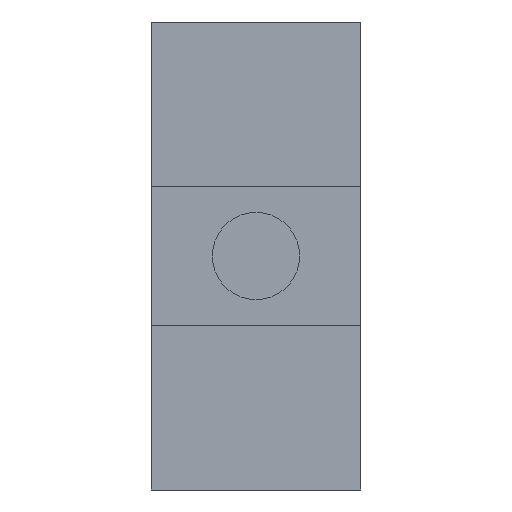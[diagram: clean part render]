
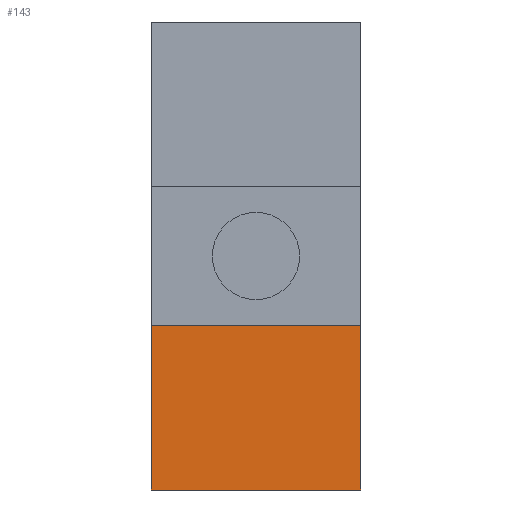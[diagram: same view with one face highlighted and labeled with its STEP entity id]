
A CAD part, front view. The second image highlights one B-rep face of the part: STEP entity #143.
In plain terms, the highlighted planar face has unit normal (0, -1, 0).
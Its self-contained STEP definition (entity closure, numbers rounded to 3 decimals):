
#30 = CARTESIAN_POINT ( 'NONE',  ( 3., -14., -3.7 ) ) ;
#31 = DIRECTION ( 'NONE',  ( 0., 0., -1. ) ) ;
#32 = DIRECTION ( 'NONE',  ( 0., -1., 0. ) ) ;
#39 = CARTESIAN_POINT ( 'NONE',  ( -3., -14., 9.7 ) ) ;
#40 = VERTEX_POINT ( 'NONE', #30 ) ;
#45 = PLANE ( 'NONE',  #897 ) ;
#63 = CARTESIAN_POINT ( 'NONE',  ( -3., -14., 1. ) ) ;
#65 = VERTEX_POINT ( 'NONE', #63 ) ;
#143 = ADVANCED_FACE ( 'NONE', ( #1501 ), #45, .T. ) ;
#253 = CARTESIAN_POINT ( 'NONE',  ( 3., -14., 9.7 ) ) ;
#422 = ORIENTED_EDGE ( 'NONE', *, *, #920, .T. ) ;
#423 = ORIENTED_EDGE ( 'NONE', *, *, #982, .F. ) ;
#428 = ORIENTED_EDGE ( 'NONE', *, *, #970, .T. ) ;
#429 = ORIENTED_EDGE ( 'NONE', *, *, #961, .T. ) ;
#514 = DIRECTION ( 'NONE',  ( 0., 0., -1. ) ) ;
#532 = VECTOR ( 'NONE', #514, 1000. ) ;
#670 = CARTESIAN_POINT ( 'NONE',  ( 3., -14., 1. ) ) ;
#675 = CARTESIAN_POINT ( 'NONE',  ( -3., -14., -3.7 ) ) ;
#817 = VERTEX_POINT ( 'NONE', #675 ) ;
#818 = VERTEX_POINT ( 'NONE', #670 ) ;
#897 = AXIS2_PLACEMENT_3D ( 'NONE', #39, #32, #31 ) ;
#920 = EDGE_CURVE ( 'NONE', #817, #40, #1144, .T. ) ;
#961 = EDGE_CURVE ( 'NONE', #65, #817, #1224, .T. ) ;
#970 = EDGE_CURVE ( 'NONE', #818, #65, #1234, .T. ) ;
#982 = EDGE_CURVE ( 'NONE', #818, #40, #1231, .T. ) ;
#1144 = LINE ( 'NONE', #1613, #1145 ) ;
#1145 = VECTOR ( 'NONE', #1611, 1000. ) ;
#1224 = LINE ( 'NONE', #1648, #1225 ) ;
#1225 = VECTOR ( 'NONE', #1661, 1000. ) ;
#1231 = LINE ( 'NONE', #253, #532 ) ;
#1234 = LINE ( 'NONE', #1651, #1235 ) ;
#1235 = VECTOR ( 'NONE', #1650, 1000. ) ;
#1480 = EDGE_LOOP ( 'NONE', ( #428, #429, #422, #423 ) ) ;
#1501 = FACE_OUTER_BOUND ( 'NONE', #1480, .T. ) ;
#1611 = DIRECTION ( 'NONE',  ( 1., 0., 0. ) ) ;
#1613 = CARTESIAN_POINT ( 'NONE',  ( -3., -14., -3.7 ) ) ;
#1648 = CARTESIAN_POINT ( 'NONE',  ( -3., -14., 9.7 ) ) ;
#1650 = DIRECTION ( 'NONE',  ( -1., 0., 0. ) ) ;
#1651 = CARTESIAN_POINT ( 'NONE',  ( 3., -14., 1. ) ) ;
#1661 = DIRECTION ( 'NONE',  ( 0., 0., -1. ) ) ;
